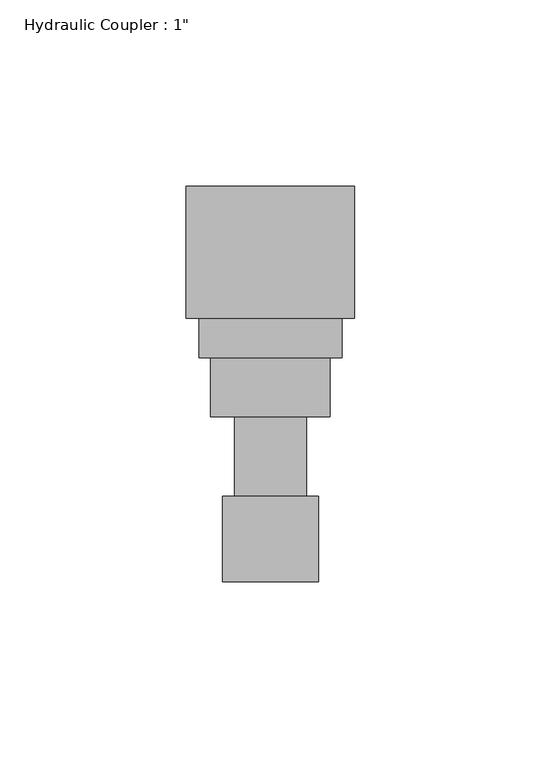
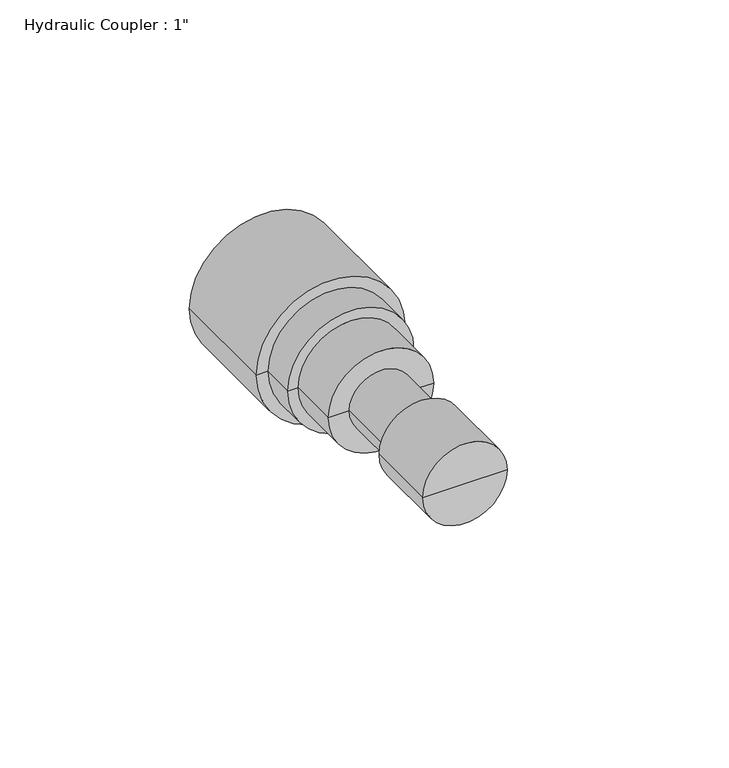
"""IFC4 building model written with IfcOpenShell, lengths in millimetres: valve geometry."""

from ifc_helpers import new_model, si_unit, frame, origin, place, context, project, spatial, polyline, circle_curve, source, transform, mapped, element, save
from ifc_brep_helpers import plane_surface, cylinder_surface, revolved_surface, advanced_brep


def valve_78ec13c5(model_context):
    return source(origin(), model_context, "Body", "AdvancedBrep", [
        advanced_brep(
        [(-570.913492, 82.6248003, 0.0), (-545.1746966, 82.6248003, 0.0), (-558.0440943, 82.6248003, 0.0), (-570.913492, 105.6270139, 0.0), (-545.1746966, 105.6270139, 0.0), (-567.7245388, 105.6270139, 0.0), (-548.3636498, 105.6270139, 0.0), (-567.7245388, 126.8598264, 0.0), (-548.3636498, 126.8598264, 0.0), (-580.692492, 153.400842, 0.0), (-535.3956966, 153.400842, 0.0), (-538.8246966, 153.400842, 0.0), (-577.263492, 153.400842, 0.0), (-580.692492, 188.7888628, 0.0), (-535.3956966, 188.7888628, 0.0), (-570.7440943, 188.7888628, 0.0), (-545.3440943, 188.7888628, 0.0), (-574.0745388, 126.8598264, 0.0), (-542.0136498, 126.8598264, 0.0), (-574.0745388, 142.7844357, 0.0), (-542.0136498, 142.7844357, 0.0), (-577.263492, 142.7844357, 0.0), (-538.8246966, 142.7844357, 0.0), (-570.7440943, 150.0770139, 0.0), (-545.3440943, 150.0770139, 0.0), (-558.0440943, 150.0770139, 0.0)],
        [
            (0, 1, circle_curve(frame((-558.0440943, 82.6248003, 0.0), z_axis=(0.0, -1.0, 0.0), x_axis=(1.0, 0.0, 0.0)), 12.8693977)),
            (1, 2),
            (2, 0),
            (1, 0, circle_curve(frame((-558.0440943, 82.6248003, 0.0), z_axis=(0.0, -1.0, 0.0), x_axis=(1.0, 0.0, 0.0)), 12.8693977)),
            (3, 4, circle_curve(frame((-558.0440943, 105.6270139, 0.0), z_axis=(0.0, -1.0, 0.0), x_axis=(1.0, 0.0, 0.0)), 12.8693977)),
            (4, 1),
            (0, 3),
            (4, 3, circle_curve(frame((-558.0440943, 105.6270139, 0.0), z_axis=(0.0, -1.0, 0.0), x_axis=(1.0, 0.0, 0.0)), 12.8693977)),
            (5, 6, circle_curve(frame((-558.0440943, 105.6270139, 0.0), z_axis=(0.0, -1.0, 0.0), x_axis=(1.0, 0.0, 0.0)), 9.6804445)),
            (6, 4),
            (3, 5),
            (6, 5, circle_curve(frame((-558.0440943, 105.6270139, 0.0), z_axis=(0.0, -1.0, 0.0), x_axis=(1.0, 0.0, 0.0)), 9.6804445)),
            (7, 8, circle_curve(frame((-558.0440943, 126.8598264, 0.0), z_axis=(0.0, -1.0, 0.0), x_axis=(1.0, 0.0, 0.0)), 9.6804445)),
            (8, 6),
            (5, 7),
            (8, 7, circle_curve(frame((-558.0440943, 126.8598264, 0.0), z_axis=(0.0, -1.0, 0.0), x_axis=(1.0, 0.0, 0.0)), 9.6804445)),
            (9, 10, circle_curve(frame((-558.0440943, 153.400842, 0.0), z_axis=(0.0, -1.0, 0.0), x_axis=(1.0, 0.0, 0.0)), 22.6483977)),
            (10, 11),
            (11, 12, circle_curve(frame((-558.0440943, 153.400842, 0.0), z_axis=(0.0, 1.0, 0.0), x_axis=(1.0, 0.0, 0.0)), 19.2193977)),
            (12, 9),
            (10, 9, circle_curve(frame((-558.0440943, 153.400842, 0.0), z_axis=(0.0, -1.0, 0.0), x_axis=(1.0, 0.0, 0.0)), 22.6483977)),
            (12, 11, circle_curve(frame((-558.0440943, 153.400842, 0.0), z_axis=(0.0, 1.0, 0.0), x_axis=(1.0, 0.0, 0.0)), 19.2193977)),
            (13, 14, circle_curve(frame((-558.0440943, 188.7888628, 0.0), z_axis=(0.0, -1.0, 0.0), x_axis=(1.0, 0.0, 0.0)), 22.6483977)),
            (14, 10),
            (9, 13),
            (14, 13, circle_curve(frame((-558.0440943, 188.7888628, 0.0), z_axis=(0.0, -1.0, 0.0), x_axis=(1.0, 0.0, 0.0)), 22.6483977)),
            (15, 16, circle_curve(frame((-558.0440943, 188.7888628, 0.0), z_axis=(0.0, -1.0, 0.0), x_axis=(1.0, 0.0, 0.0)), 12.7)),
            (16, 14),
            (13, 15),
            (16, 15, circle_curve(frame((-558.0440943, 188.7888628, 0.0), z_axis=(0.0, -1.0, 0.0), x_axis=(1.0, 0.0, 0.0)), 12.7)),
            (17, 18, circle_curve(frame((-558.0440943, 126.8598264, 0.0), z_axis=(0.0, -1.0, 0.0), x_axis=(1.0, 0.0, 0.0)), 16.0304445)),
            (18, 8),
            (7, 17),
            (18, 17, circle_curve(frame((-558.0440943, 126.8598264, 0.0), z_axis=(0.0, -1.0, 0.0), x_axis=(1.0, 0.0, 0.0)), 16.0304445)),
            (19, 20, circle_curve(frame((-558.0440943, 142.7844357, 0.0), z_axis=(0.0, -1.0, 0.0), x_axis=(1.0, 0.0, 0.0)), 16.0304445)),
            (20, 18),
            (17, 19),
            (20, 19, circle_curve(frame((-558.0440943, 142.7844357, 0.0), z_axis=(0.0, -1.0, 0.0), x_axis=(1.0, 0.0, 0.0)), 16.0304445)),
            (21, 22, circle_curve(frame((-558.0440943, 142.7844357, 0.0), z_axis=(0.0, -1.0, 0.0), x_axis=(1.0, 0.0, 0.0)), 19.2193977)),
            (22, 20),
            (19, 21),
            (22, 21, circle_curve(frame((-558.0440943, 142.7844357, 0.0), z_axis=(0.0, -1.0, 0.0), x_axis=(1.0, 0.0, 0.0)), 19.2193977)),
            (11, 22),
            (21, 12),
            (23, 24, circle_curve(frame((-558.0440943, 150.0770139, 0.0), z_axis=(0.0, -1.0, 0.0), x_axis=(1.0, 0.0, 0.0)), 12.7)),
            (24, 16),
            (15, 23),
            (24, 23, circle_curve(frame((-558.0440943, 150.0770139, 0.0), z_axis=(0.0, -1.0, 0.0), x_axis=(1.0, 0.0, 0.0)), 12.7)),
            (25, 24),
            (23, 25),
        ],
        [
            plane_surface(frame((-558.0440943, 82.6248003, 0.0), z_axis=(0.0, -1.0, 0.0), x_axis=(1.0, 0.0, 0.0))),
            cylinder_surface(frame((-558.0440943, 188.7888628, 0.0), z_axis=(0.0, 1.0, 0.0), x_axis=(1.0, 0.0, 0.0)), 12.8693977),
            plane_surface(frame((-558.0440943, 105.6270139, 0.0), z_axis=(0.0, 1.0, 0.0), x_axis=(1.0, 0.0, 0.0))),
            cylinder_surface(frame((-558.0440943, 188.7888628, 0.0), z_axis=(0.0, 1.0, 0.0), x_axis=(1.0, 0.0, 0.0)), 9.6804445),
            plane_surface(frame((-558.0440943, 153.400842, 0.0), z_axis=(0.0, -1.0, 0.0), x_axis=(1.0, 0.0, 0.0))),
            cylinder_surface(frame((-558.0440943, 188.7888628, 0.0), z_axis=(0.0, 1.0, 0.0), x_axis=(1.0, 0.0, 0.0)), 22.6483977),
            plane_surface(frame((-558.0440943, 188.7888628, 0.0), z_axis=(0.0, 1.0, 0.0), x_axis=(1.0, 0.0, 0.0))),
            plane_surface(frame((-558.0440943, 126.8598264, 0.0), z_axis=(0.0, -1.0, 0.0), x_axis=(1.0, 0.0, 0.0))),
            cylinder_surface(frame((-558.0440943, 188.7888628, 0.0), z_axis=(0.0, 1.0, 0.0), x_axis=(1.0, 0.0, 0.0)), 16.0304445),
            plane_surface(frame((-558.0440943, 142.7844357, 0.0), z_axis=(0.0, -1.0, 0.0), x_axis=(1.0, 0.0, 0.0))),
            cylinder_surface(frame((-558.0440943, 188.7888628, 0.0), z_axis=(0.0, 1.0, 0.0), x_axis=(1.0, 0.0, 0.0)), 19.2193977),
            revolved_surface(polyline([(-545.3440942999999, 188.7888628, 0.0), (-545.3440942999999, 150.0770139, 0.0)]), (-558.0440943, 188.7888628, 0.0), (0.0, 1.0, 0.0)),
            plane_surface(frame((-558.0440943, 150.0770139, 0.0), z_axis=(0.0, 1.0, 0.0), x_axis=(1.0, 0.0, 0.0))),
        ],
        [
            (0, [[1, 2, 3]]),
            (0, [[4, -3, -2]]),
            (1, [[5, 6, -1, 7]]),
            (1, [[8, -7, -4, -6]]),
            (2, [[9, 10, -5, 11]]),
            (2, [[12, -11, -8, -10]]),
            (3, [[13, 14, -9, 15]]),
            (3, [[16, -15, -12, -14]]),
            (4, [[17, 18, 19, 20]]),
            (4, [[21, -20, 22, -18]]),
            (5, [[23, 24, -17, 25]]),
            (5, [[26, -25, -21, -24]]),
            (6, [[27, 28, -23, 29]]),
            (6, [[30, -29, -26, -28]]),
            (7, [[31, 32, -13, 33]]),
            (7, [[34, -33, -16, -32]]),
            (8, [[35, 36, -31, 37]]),
            (8, [[38, -37, -34, -36]]),
            (9, [[39, 40, -35, 41]]),
            (9, [[42, -41, -38, -40]]),
            (10, [[-19, 43, -39, 44]]),
            (10, [[-22, -44, -42, -43]]),
            (11, [[45, 46, -27, 47]]),
            (11, [[48, -47, -30, -46]]),
            (12, [[49, -45, 50]]),
            (12, [[-50, -48, -49]]),
        ],
    ),
    ])


if __name__ == "__main__":
    model = new_model("IFC4")
    model_context = context("Model", 3, world=origin())
    ifc_project = project(units=[si_unit("LENGTHUNIT", "METRE", prefix="MILLI")], contexts=[model_context])
    site = spatial("IfcSite", under=ifc_project)
    building = spatial("IfcBuilding", under=site)
    placement = place(None, origin())
    valve_shape = valve_78ec13c5(model_context)
    element("IfcValve", 1, ObjectType="Hydraulic Coupler : 1\"", at=placement, inside=building, context=model_context, shape_type="MappedRepresentation", body=[
        mapped(valve_shape, transform((0.0, 0.0, 0.0), x_axis=(1.0, 0.0, 0.0), y_axis=(0.0, 1.0, 0.0), z_axis=(0.0, 0.0, 1.0))),
    ])
    save(model, "model.ifc")
